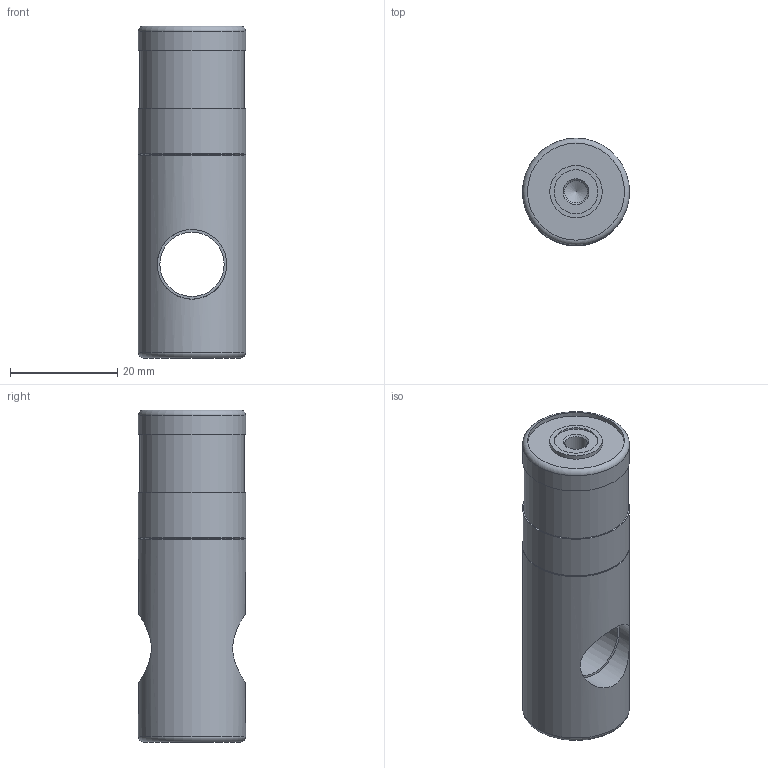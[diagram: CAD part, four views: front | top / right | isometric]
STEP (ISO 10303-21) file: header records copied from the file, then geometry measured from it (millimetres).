
FILE_DESCRIPTION(('STEP AP242'),'1');
FILE_NAME('A.6012 Feststellpatrone.stp','2026-07-01T13:22:42',(' '),(' '),'Spatial InterOp 3D',' ',' ');
FILE_SCHEMA(('AP242_MANAGED_MODEL_BASED_3D_ENGINEERING_MIM_LF {1 0 10303 442 1 1 4}'));
Length unit declared in the file: millimetre
Products named in the file (1): A.6012 Feststellpatrone
Bounding box: 20 x 20 x 62 mm (x, y, z)
Volume: 16682.7 mm3; surface area: 5128.3 mm2
Topology: 1 solids, 1 shells, 26 faces, 48 edges, 30 vertices
Faces by surface type: cylinder 12, plane 8, cone 4, torus 2
Full cylindrical faces by diameter (mm): 4.2 x2, 8.2 x1, 9.8 x1, 12 x1, 13 x2, 18.1 x1, 19.5 x1, 20 x3
Entity records: 985 total; most frequent: CARTESIAN_POINT 240, DIRECTION 102, EDGE_LOOP 52, ORIENTED_EDGE 52, AXIS2_PLACEMENT_3D 51, FACE_OUTER_BOUND 40, STYLED_ITEM 27, PRESENTATION_STYLE_ASSIGNMENT 27
